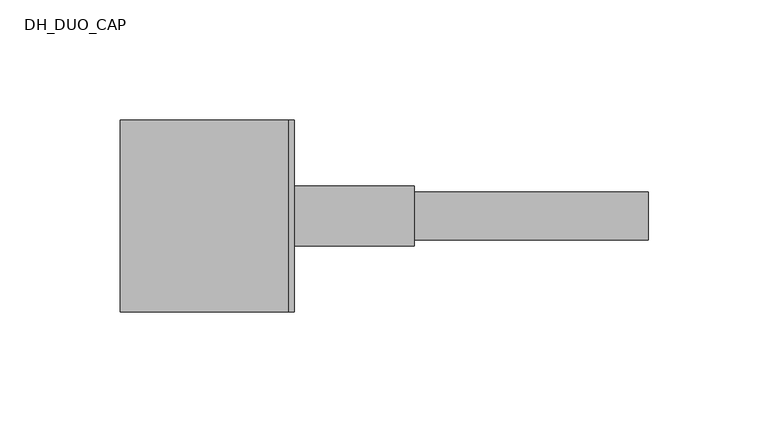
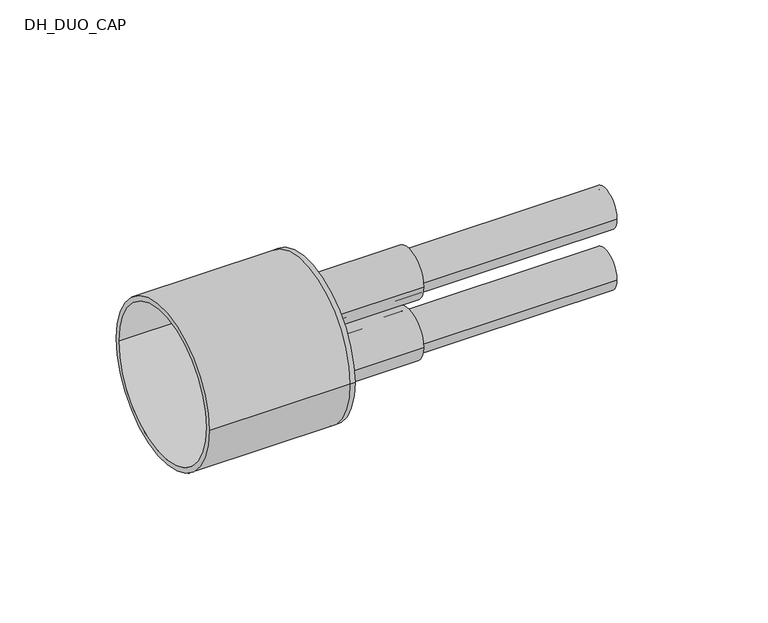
"""IFC4 building model written with IfcOpenShell, lengths in millimetres: pipe fitting geometry, DH_DUO_CAP : INSULPEX DUO - 11 Heating - Rubber Cap."""

import ifcopenshell
import ifcopenshell.guid

model = None  # the IFC model being written
_history = None  # IfcOwnerHistory: only IFC2X3 demands one
_inside = {}  # id of a spatial element -> (the spatial element, [elements in it])
_under = {}  # id of a project, library or spatial element -> (it, [spatial elements below it])
_declared = {}  # id of a project -> (the project, [libraries it declares])
_typed = {}  # id of a type object -> (the type object, [elements of that type])
_made_of = {}  # id of a material, layer set ... -> (it, [elements and type objects made of it])


def new_model(schema):
    """Start an empty IFC model of exactly this schema.

    Asked for "IFC4X3", IfcOpenShell would pick the latest addendum, in which some entities
    have other attributes; the version numbers below select the first issue.
    IFC2X3 requires an IfcOwnerHistory on every rooted entity: one is made here for all.
    """
    global model, _history
    if schema == "IFC4X3":
        model = ifcopenshell.file(schema_version=(4, 3, 0, 0))
    else:
        model = ifcopenshell.file(schema=schema)
    _inside.clear()
    _under.clear()
    _declared.clear()
    _typed.clear()
    _made_of.clear()
    _history = None
    if model.schema == "IFC2X3":
        org = make("IfcOrganization", Name="unknown")
        user = make(
            "IfcPersonAndOrganization",
            ThePerson=make("IfcPerson", FamilyName="unknown"),
            TheOrganization=org,
        )
        app = make(
            "IfcApplication",
            ApplicationDeveloper=org,
            Version="unknown",
            ApplicationFullName="unknown",
            ApplicationIdentifier="unknown",
        )
        _history = make(
            "IfcOwnerHistory",
            OwningUser=user,
            OwningApplication=app,
            ChangeAction="ADDED",
            CreationDate=0,
        )
    return model


def make(cls, **values):
    """One entity of the class cls with the attributes given. An attribute that is None is left unset."""
    return model.create_entity(
        cls, **{name: value for name, value in values.items() if value is not None}
    )


def rooted(cls, **values):
    """An entity with a GlobalId (a new one), such as an element, a storey or a relation."""
    return make(cls, GlobalId=ifcopenshell.guid.new(), OwnerHistory=_history, **values)


def si_unit(unit_type, name, prefix=None):
    """IfcSIUnit, for example si_unit("LENGTHUNIT", "METRE", prefix="MILLI")."""
    return make("IfcSIUnit", UnitType=unit_type, Prefix=prefix, Name=name)


def assignment(units):
    """IfcUnitAssignment: the units of a project."""
    return None if units is None else make("IfcUnitAssignment", Units=units)


def point(xyz):
    """IfcCartesianPoint."""
    return None if xyz is None else make("IfcCartesianPoint", Coordinates=xyz)


def direction(xyz):
    """IfcDirection."""
    return None if xyz is None else make("IfcDirection", DirectionRatios=xyz)


def frame(location, z_axis=None, x_axis=None):
    """IfcAxis2Placement3D, a coordinate frame: its origin and axes. An axis left out is left unset."""
    return make(
        "IfcAxis2Placement3D",
        Location=point(location),
        Axis=direction(z_axis),
        RefDirection=direction(x_axis),
    )


def frame_2d(location, x_axis=None):
    """IfcAxis2Placement2D, a coordinate frame in the plane: its origin and x axis."""
    return make(
        "IfcAxis2Placement2D", Location=point(location), RefDirection=direction(x_axis)
    )


def origin():
    """The frame at (0, 0, 0) with its axes left unset."""
    return frame((0.0, 0.0, 0.0))


def place(relative_to, where):
    """IfcLocalPlacement: puts the frame where relative to a parent placement (None: the world)."""
    return make(
        "IfcLocalPlacement", PlacementRelTo=relative_to, RelativePlacement=where
    )


def context(
    kind, dimensions, precision=None, world=None, true_north=None, identifier=None
):
    """IfcGeometricRepresentationContext, for example the 3D "Model" context."""
    return make(
        "IfcGeometricRepresentationContext",
        ContextIdentifier=identifier,
        ContextType=kind,
        CoordinateSpaceDimension=dimensions,
        Precision=precision,
        WorldCoordinateSystem=world,
        TrueNorth=true_north,
    )


def project(units=None, contexts=None):
    """IfcProject with its units and contexts."""
    return rooted(
        "IfcProject",
        Name="project",
        RepresentationContexts=contexts,
        UnitsInContext=assignment(units),
    )


def spatial(cls, under=None, at=None, **own):
    """A site, building, storey or space (cls), placed at a placement, below another one or the project."""
    s = rooted(cls, ObjectPlacement=at, **own)
    if under is not None:
        _under.setdefault(under.id(), (under, []))[1].append(s)
    return s


def polyline(points):
    """IfcPolyline through the points."""
    return make("IfcPolyline", Points=[point(p) for p in points])


def circle_curve(where, radius):
    """IfcCircle in the frame where."""
    return make("IfcCircle", Position=where, Radius=radius)


def trimmed(basis, trim1, trim2, sense, master):
    """IfcTrimmedCurve: the piece of a basis curve between two trims."""
    return make(
        "IfcTrimmedCurve",
        BasisCurve=basis,
        Trim1=trim1,
        Trim2=trim2,
        SenseAgreement=sense,
        MasterRepresentation=master,
    )


def segment(curve, same_sense, transition):
    """IfcCompositeCurveSegment."""
    return make(
        "IfcCompositeCurveSegment",
        Transition=transition,
        SameSense=same_sense,
        ParentCurve=curve,
    )


def composite_curve(segments, self_intersect=None):
    """IfcCompositeCurve: segments joined end to end."""
    return make("IfcCompositeCurve", Segments=segments, SelfIntersect=self_intersect)


def outline(outer, holes=None, kind="AREA"):
    """IfcArbitraryClosedProfileDef: a profile drawn as a closed curve; with holes, ...WithVoids."""
    if holes is None:
        return make("IfcArbitraryClosedProfileDef", ProfileType=kind, OuterCurve=outer)
    return make(
        "IfcArbitraryProfileDefWithVoids",
        ProfileType=kind,
        OuterCurve=outer,
        InnerCurves=holes,
    )


def extrude(swept, where, along, depth):
    """IfcExtrudedAreaSolid: the profile swept, set in the frame where, extruded along a direction by depth."""
    return make(
        "IfcExtrudedAreaSolid",
        SweptArea=swept,
        Position=where,
        ExtrudedDirection=direction(along),
        Depth=depth,
    )


def shape(context_of_items, identifier, shape_type, items):
    """IfcShapeRepresentation: the items that make up one representation, for example the "Body"."""
    return make(
        "IfcShapeRepresentation",
        ContextOfItems=context_of_items,
        RepresentationIdentifier=identifier,
        RepresentationType=shape_type,
        Items=items,
    )


def source(mapping_origin, context_of_items, identifier, shape_type, items):
    """IfcRepresentationMap: a shape defined once, which mapped items show again and again."""
    return make(
        "IfcRepresentationMap",
        MappingOrigin=mapping_origin,
        MappedRepresentation=shape(context_of_items, identifier, shape_type, items),
    )


def transform(
    local_origin,
    x_axis=None,
    y_axis=None,
    z_axis=None,
    scale=None,
    scale2=None,
    scale3=None,
    uniform=True,
):
    """IfcCartesianTransformationOperator3D, or its non-uniform kind. x_axis, y_axis, z_axis: its Axis1, 2, 3."""
    if uniform:
        return make(
            "IfcCartesianTransformationOperator3D",
            Axis1=direction(x_axis),
            Axis2=direction(y_axis),
            LocalOrigin=point(local_origin),
            Scale=scale,
            Axis3=direction(z_axis),
        )
    return make(
        "IfcCartesianTransformationOperator3DnonUniform",
        Axis1=direction(x_axis),
        Axis2=direction(y_axis),
        LocalOrigin=point(local_origin),
        Scale=scale,
        Axis3=direction(z_axis),
        Scale2=scale2,
        Scale3=scale3,
    )


def mapped(mapping_source, mapping_target):
    """IfcMappedItem: shows the shape of a source again, moved by a transform."""
    return make(
        "IfcMappedItem", MappingSource=mapping_source, MappingTarget=mapping_target
    )


def made_of(thing, what):
    """Note that an element or type object is made of a material, layer set ...; save() writes the relation."""
    if what is not None:
        _made_of.setdefault(what.id(), (what, []))[1].append(thing)
    return thing


def element(
    cls,
    number,
    at=None,
    inside=None,
    cuts=None,
    type_object=None,
    material=None,
    context=None,
    identifier="Body",
    shape_type=None,
    held_by="IfcProductDefinitionShape",
    body=None,
    shapes=None,
    **own,
):
    """One element of the class cls, such as IfcWall. Its Tag is "e" and its number.

    at: its placement. inside: the storey or other place that contains it. cuts: it is an
    opening in that element (IfcRelVoidsElement). A single representation is given by context,
    identifier, shape_type and body (its items); several are given by shapes. held_by: the class
    of the entity that holds the representations. save() writes the other relations.
    """
    e = rooted(cls, Tag="e%d" % number, ObjectPlacement=at, **own)
    if body is not None:
        shapes = [shape(context, identifier, shape_type, body)]
    if shapes is not None:
        e.Representation = make(held_by, Representations=shapes)
    if inside is not None:
        _inside.setdefault(inside.id(), (inside, []))[1].append(e)
    if cuts is not None:
        rooted(
            "IfcRelVoidsElement", RelatingBuildingElement=cuts, RelatedOpeningElement=e
        )
    if type_object is not None:
        _typed.setdefault(type_object.id(), (type_object, []))[1].append(e)
    return made_of(e, material)


def aggregate(whole, parts):
    """IfcRelAggregates: a whole, such as a stair, and the parts it consists of."""
    return rooted("IfcRelAggregates", RelatingObject=whole, RelatedObjects=parts)


def save(model, path):
    """Write the relations noted so far, then the file.

    IfcRelAggregates (storeys below a building ...), IfcRelContainedInSpatialStructure (elements
    in a storey), IfcRelDefinesByType, IfcRelAssociatesMaterial and IfcRelDeclares: one each for
    every whole, place, type object, material and project.
    """
    for whole, parts in _under.values():
        aggregate(whole, parts)
    for where, things in _inside.values():
        rooted(
            "IfcRelContainedInSpatialStructure",
            RelatedElements=things,
            RelatingStructure=where,
        )
    for kind, things in _typed.values():
        rooted("IfcRelDefinesByType", RelatedObjects=things, RelatingType=kind)
    for what, things in _made_of.values():
        rooted("IfcRelAssociatesMaterial", RelatedObjects=things, RelatingMaterial=what)
    for by, libraries in _declared.values():
        rooted("IfcRelDeclares", RelatingContext=by, RelatedDefinitions=libraries)
    model.write(path)


def plane_surface(at):
    """IfcPlane: the flat surface through the origin of the frame at, square to its z axis."""
    return make("IfcPlane", Position=at)


def cylinder_surface(at, radius):
    """IfcCylindricalSurface: all points at the distance radius from the z axis of the frame at."""
    return make("IfcCylindricalSurface", Position=at, Radius=radius)


def revolved_surface(curve, axis_point, axis_direction):
    """IfcSurfaceOfRevolution: the curve turned about the line through axis_point along axis_direction."""
    return make(
        "IfcSurfaceOfRevolution",
        SweptCurve=make("IfcArbitraryOpenProfileDef", ProfileType="CURVE", Curve=curve),
        AxisPosition=make("IfcAxis1Placement", Location=point(axis_point), Axis=direction(axis_direction)),
    )


def advanced_brep(points, edges, surfaces, faces):
    """IfcAdvancedBrep: a solid bounded by faces that lie on surfaces and meet in shared edges.

    An edge is (start, end): straight between two places in points (the first is 0);
    or (start, end, curve); or (start, end, curve, False) where it runs against its curve.
    A face is (place in surfaces, loops), or (place, loops, False) where it looks against
    its surface's normal. A loop lists edges by number (the first is 1), with a minus sign
    where the edge is run from its end to its start. The first loop is the outer one.
    """
    corners = [point(p) for p in points]
    vertices = [make("IfcVertexPoint", VertexGeometry=c) for c in corners]
    made = []
    for start, end, *more in edges:
        made.append(
            make(
                "IfcEdgeCurve",
                EdgeStart=vertices[start],
                EdgeEnd=vertices[end],
                EdgeGeometry=more[0] if more else make("IfcPolyline", Points=[corners[start], corners[end]]),
                SameSense=more[1] if len(more) > 1 else True,
            )
        )
    hull = []
    for where, loops, *sense in faces:
        bounds = []
        for j, loop in enumerate(loops):
            ring = [make("IfcOrientedEdge", EdgeElement=made[abs(k) - 1], Orientation=k > 0) for k in loop]
            bounds.append(
                make(
                    "IfcFaceOuterBound" if j == 0 else "IfcFaceBound",
                    Bound=make("IfcEdgeLoop", EdgeList=ring),
                    Orientation=True,
                )
            )
        hull.append(make("IfcAdvancedFace", Bounds=bounds, FaceSurface=surfaces[where], SameSense=sense[0] if sense else True))
    return make("IfcAdvancedBrep", Outer=make("IfcClosedShell", CfsFaces=hull))


def dh_duo_cap_a7ad99f1(model_context):
    return source(origin(), model_context, "Body", "SolidModel", [
        extrude(outline(composite_curve([segment(trimmed(circle_curve(frame_2d((0.0, -16.0)), 10.0), [point((-10.0, -16.0))], [point((10.0, -16.0))], False, "CARTESIAN"), True, "CONTINUOUS"), segment(trimmed(circle_curve(frame_2d((0.0, -16.0)), 10.0), [point((10.0, -16.0))], [point((-10.0, -16.0))], False, "CARTESIAN"), True, "CONTINUOUS")], self_intersect=False), holes=[composite_curve([segment(trimmed(circle_curve(frame_2d((0.0, -16.0)), 8.1), [point((-8.1, -16.0))], [point((8.1, -16.0))], True, "CARTESIAN"), True, "CONTINUOUS"), segment(trimmed(circle_curve(frame_2d((0.0, -16.0)), 8.1), [point((8.1, -16.0))], [point((-8.1, -16.0))], True, "CARTESIAN"), True, "CONTINUOUS")], self_intersect=False)]), frame((0.0, 0.0, 0.0), z_axis=(1.0, 0.0, 0.0), x_axis=(0.0, 1.0, 0.0)), (0.0, 0.0, 1.0), 150.0),
        extrude(outline(composite_curve([segment(trimmed(circle_curve(frame_2d((0.0, 16.0)), 10.0), [point((-10.0, 16.0))], [point((10.0, 16.0))], False, "CARTESIAN"), True, "CONTINUOUS"), segment(trimmed(circle_curve(frame_2d((0.0, 16.0)), 10.0), [point((10.0, 16.0))], [point((-10.0, 16.0))], False, "CARTESIAN"), True, "CONTINUOUS")], self_intersect=False), holes=[composite_curve([segment(trimmed(circle_curve(frame_2d((0.0, 16.0)), 8.1), [point((-8.1, 16.0))], [point((8.1, 16.0))], True, "CARTESIAN"), True, "CONTINUOUS"), segment(trimmed(circle_curve(frame_2d((0.0, 16.0)), 8.1), [point((8.1, 16.0))], [point((-8.1, 16.0))], True, "CARTESIAN"), True, "CONTINUOUS")], self_intersect=False)]), frame((0.0, 0.0, 0.0), z_axis=(1.0, 0.0, 0.0), x_axis=(0.0, 1.0, 0.0)), (0.0, 0.0, 1.0), 150.0),
        advanced_brep(
        [(-70.0, -40.0, 0.0), (-70.0, 40.0, 0.0), (-70.0, -37.5, 0.0), (-70.0, 37.5, 0.0), (0.0, -37.5, 0.0), (0.0, 37.5, 0.0), (0.0, -40.0, 0.0), (0.0, 40.0, 0.0), (0.0, 10.0, 16.0), (0.0, -10.0, 16.0), (0.0, 10.0, -16.0), (0.0, -10.0, -16.0), (2.5, -40.0, 0.0), (2.5, 40.0, 0.0), (2.5, -10.0, 16.0), (2.5, 10.0, 16.0), (2.5, -10.0, -16.0), (2.5, 10.0, -16.0)],
        [
            (0, 1, circle_curve(frame((-70.0, 0.0, 0.0), z_axis=(-1.0, 0.0, 0.0), x_axis=(0.0, 1.0, 0.0)), 40.0)),
            (1, 0, circle_curve(frame((-70.0, 0.0, 0.0), z_axis=(-1.0, 0.0, 0.0), x_axis=(0.0, 1.0, 0.0)), 40.0)),
            (2, 3, circle_curve(frame((-70.0, 0.0, 0.0), z_axis=(1.0, 0.0, 0.0), x_axis=(0.0, 1.0, 0.0)), 37.5)),
            (3, 2, circle_curve(frame((-70.0, 0.0, 0.0), z_axis=(1.0, 0.0, 0.0), x_axis=(0.0, 1.0, 0.0)), 37.5)),
            (2, 4),
            (4, 5, circle_curve(frame((0.0, 0.0, 0.0), z_axis=(1.0, 0.0, 0.0), x_axis=(0.0, 1.0, 0.0)), 37.5)),
            (5, 3),
            (5, 4, circle_curve(frame((0.0, 0.0, 0.0), z_axis=(1.0, 0.0, 0.0), x_axis=(0.0, 1.0, 0.0)), 37.5)),
            (0, 6),
            (6, 7, circle_curve(frame((0.0, 0.0, 0.0), z_axis=(-1.0, 0.0, 0.0), x_axis=(0.0, 1.0, 0.0)), 40.0)),
            (7, 1),
            (7, 6, circle_curve(frame((0.0, 0.0, 0.0), z_axis=(-1.0, 0.0, 0.0), x_axis=(0.0, 1.0, 0.0)), 40.0)),
            (8, 9, circle_curve(frame((0.0, 0.0, 16.0), z_axis=(1.0, 0.0, 0.0), x_axis=(0.0, 1.0, 0.0)), 10.0)),
            (9, 8, circle_curve(frame((0.0, 0.0, 16.0), z_axis=(1.0, 0.0, 0.0), x_axis=(0.0, 1.0, 0.0)), 10.0)),
            (10, 11, circle_curve(frame((0.0, 0.0, -16.0), z_axis=(1.0, 0.0, 0.0), x_axis=(0.0, 1.0, 0.0)), 10.0)),
            (11, 10, circle_curve(frame((0.0, 0.0, -16.0), z_axis=(1.0, 0.0, 0.0), x_axis=(0.0, 1.0, 0.0)), 10.0)),
            (12, 13, circle_curve(frame((2.5, 0.0, 0.0), z_axis=(1.0, 0.0, 0.0), x_axis=(0.0, 1.0, 0.0)), 40.0)),
            (13, 12, circle_curve(frame((2.5, 0.0, 0.0), z_axis=(1.0, 0.0, 0.0), x_axis=(0.0, 1.0, 0.0)), 40.0)),
            (14, 15, circle_curve(frame((2.5, 0.0, 16.0), z_axis=(-1.0, 0.0, 0.0), x_axis=(0.0, 1.0, 0.0)), 10.0)),
            (15, 14, circle_curve(frame((2.5, 0.0, 16.0), z_axis=(-1.0, 0.0, 0.0), x_axis=(0.0, 1.0, 0.0)), 10.0)),
            (16, 17, circle_curve(frame((2.5, 0.0, -16.0), z_axis=(-1.0, 0.0, 0.0), x_axis=(0.0, 1.0, 0.0)), 10.0)),
            (17, 16, circle_curve(frame((2.5, 0.0, -16.0), z_axis=(-1.0, 0.0, 0.0), x_axis=(0.0, 1.0, 0.0)), 10.0)),
            (13, 7),
            (6, 12),
            (8, 15),
            (14, 9),
            (10, 17),
            (16, 11),
        ],
        [
            plane_surface(frame((-70.0, 0.0, 0.0), z_axis=(-1.0, 0.0, 0.0), x_axis=(0.0, 0.0, 1.0))),
            revolved_surface(polyline([(0.0, 37.5, 0.0), (-70.0, 37.5, 0.0)]), (-70.0, 0.0, 0.0), (1.0, 0.0, 0.0)),
            cylinder_surface(frame((-70.0, 0.0, 0.0), z_axis=(-1.0, 0.0, 0.0), x_axis=(0.0, 1.0, 0.0)), 40.0),
            plane_surface(frame((0.0, 0.0, 0.0), z_axis=(-1.0, 0.0, 0.0), x_axis=(0.0, 0.0, 1.0))),
            plane_surface(frame((2.5, 0.0, 0.0), z_axis=(1.0, 0.0, 0.0), x_axis=(0.0, 0.0, 1.0))),
            cylinder_surface(frame((0.0, 0.0, 0.0), z_axis=(-1.0, 0.0, 0.0), x_axis=(0.0, 1.0, 0.0)), 40.0),
            revolved_surface(polyline([(0.0, 10.0, 16.0), (2.5, 10.0, 16.0)]), (0.0, 0.0, 16.0), (-1.0, 0.0, 0.0)),
            revolved_surface(polyline([(0.0, 10.0, -16.0), (2.5, 10.0, -16.0)]), (0.0, 0.0, -16.0), (-1.0, 0.0, 0.0)),
        ],
        [
            (0, [[1, 2], [3, 4]]),
            (1, [[-3, 5, 6, 7]]),
            (1, [[-4, -7, 8, -5]]),
            (2, [[-1, 9, 10, 11]]),
            (2, [[-2, -11, 12, -9]]),
            (3, [[-6, -8], [13, 14], [15, 16]]),
            (4, [[17, 18], [19, 20], [21, 22]]),
            (5, [[-18, 23, -10, 24]]),
            (5, [[-17, -24, -12, -23]]),
            (6, [[25, -19, 26, -13]]),
            (6, [[-25, -14, -26, -20]]),
            (7, [[27, -21, 28, -15]]),
            (7, [[-27, -16, -28, -22]]),
        ],
    ),
        extrude(outline(composite_curve([segment(trimmed(circle_curve(frame_2d((0.0, -16.0)), 12.5), [point((-12.5, -16.0))], [point((12.5, -16.0))], False, "CARTESIAN"), True, "CONTINUOUS"), segment(trimmed(circle_curve(frame_2d((0.0, -16.0)), 12.5), [point((12.5, -16.0))], [point((-12.5, -16.0))], False, "CARTESIAN"), True, "CONTINUOUS")], self_intersect=False), holes=[composite_curve([segment(trimmed(circle_curve(frame_2d((0.0, -16.0)), 10.0), [point((-10.0, -16.0))], [point((10.0, -16.0))], True, "CARTESIAN"), True, "CONTINUOUS"), segment(trimmed(circle_curve(frame_2d((0.0, -16.0)), 10.0), [point((10.0, -16.0))], [point((-10.0, -16.0))], True, "CARTESIAN"), True, "CONTINUOUS")], self_intersect=False)]), frame((2.5, 0.0, 0.0), z_axis=(1.0, 0.0, 0.0), x_axis=(0.0, 1.0, 0.0)), (0.0, 0.0, 1.0), 50.0),
        extrude(outline(composite_curve([segment(trimmed(circle_curve(frame_2d((0.0, 16.0)), 12.5), [point((-12.5, 16.0))], [point((12.5, 16.0))], False, "CARTESIAN"), True, "CONTINUOUS"), segment(trimmed(circle_curve(frame_2d((0.0, 16.0)), 12.5), [point((12.5, 16.0))], [point((-12.5, 16.0))], False, "CARTESIAN"), True, "CONTINUOUS")], self_intersect=False), holes=[composite_curve([segment(trimmed(circle_curve(frame_2d((0.0, 16.0)), 10.0), [point((-10.0, 16.0))], [point((10.0, 16.0))], True, "CARTESIAN"), True, "CONTINUOUS"), segment(trimmed(circle_curve(frame_2d((0.0, 16.0)), 10.0), [point((10.0, 16.0))], [point((-10.0, 16.0))], True, "CARTESIAN"), True, "CONTINUOUS")], self_intersect=False)]), frame((2.5, 0.0, 0.0), z_axis=(1.0, 0.0, 0.0), x_axis=(0.0, 1.0, 0.0)), (0.0, 0.0, 1.0), 50.0),
    ])


if __name__ == "__main__":
    model = new_model("IFC4")
    model_context = context("Model", 3, world=origin())
    ifc_project = project(units=[si_unit("LENGTHUNIT", "METRE", prefix="MILLI")], contexts=[model_context])
    site = spatial("IfcSite", under=ifc_project)
    building = spatial("IfcBuilding", under=site)
    placement = place(None, origin())
    dh_duo_cap_shape = dh_duo_cap_a7ad99f1(model_context)
    element("IfcPipeFitting", 1, ObjectType="DH_DUO_CAP : INSULPEX DUO - 11 Heating - Rubber Cap", at=placement, inside=building, context=model_context, shape_type="MappedRepresentation", body=[
        mapped(dh_duo_cap_shape, transform((0.0, 0.0, 0.0), x_axis=(1.0, 0.0, 0.0), y_axis=(0.0, 1.0, 0.0), z_axis=(0.0, 0.0, 1.0))),
    ])
    save(model, "model.ifc")
